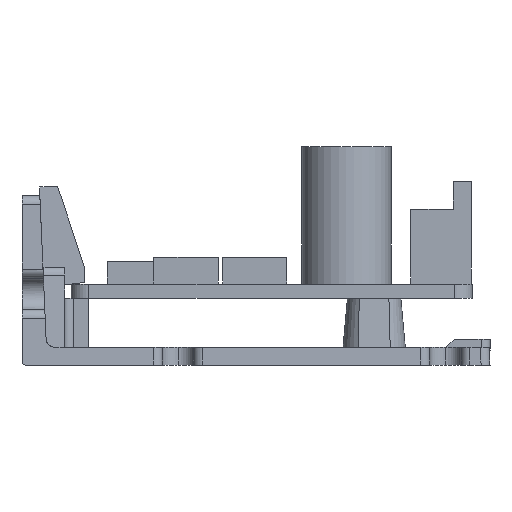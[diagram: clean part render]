
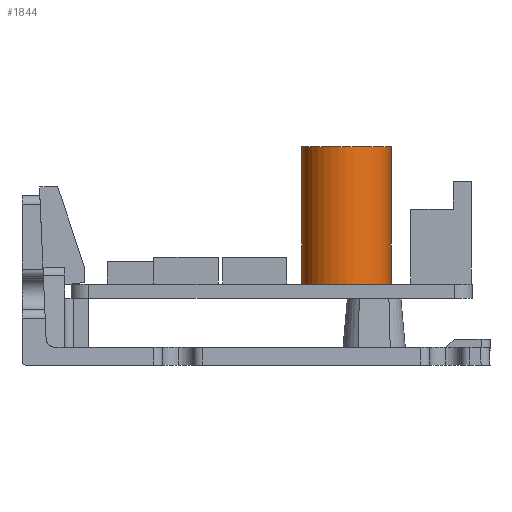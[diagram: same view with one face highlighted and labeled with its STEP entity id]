
A CAD part, left-side view. The second image highlights one B-rep face of the part: STEP entity #1844.
In plain terms, the highlighted cylindrical face has radius 5 mm (diameter 10 mm), a partial arc.
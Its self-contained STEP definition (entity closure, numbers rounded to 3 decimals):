
#249 = FACE_OUTER_BOUND ( 'NONE', #6425, .T. ) ;
#307 = DIRECTION ( 'NONE',  ( -1., 0., 0. ) ) ;
#698 = LINE ( 'NONE', #7408, #4447 ) ;
#715 = ORIENTED_EDGE ( 'NONE', *, *, #2830, .F. ) ;
#998 = CARTESIAN_POINT ( 'NONE',  ( 8.05, 16.1, 22.9 ) ) ;
#1392 = CIRCLE ( 'NONE', #7114, 5. ) ;
#1844 = ADVANCED_FACE ( 'NONE', ( #249 ), #7542, .T. ) ;
#1930 = AXIS2_PLACEMENT_3D ( 'NONE', #998, #2413, #7332 ) ;
#2156 = DIRECTION ( 'NONE',  ( 0., 0., -1. ) ) ;
#2413 = DIRECTION ( 'NONE',  ( 0., 0., -1. ) ) ;
#2830 = EDGE_CURVE ( 'NONE', #5985, #8064, #7373, .T. ) ;
#3822 = CIRCLE ( 'NONE', #5284, 5. ) ;
#3965 = EDGE_CURVE ( 'NONE', #4052, #9067, #698, .T. ) ;
#4052 = VERTEX_POINT ( 'NONE', #8993 ) ;
#4068 = VECTOR ( 'NONE', #2156, 1000. ) ;
#4176 = CARTESIAN_POINT ( 'NONE',  ( 8.05, 16.1, 24.5 ) ) ;
#4447 = VECTOR ( 'NONE', #4597, 1000. ) ;
#4547 = DIRECTION ( 'NONE',  ( 0., 0., 1. ) ) ;
#4597 = DIRECTION ( 'NONE',  ( 0., 0., -1. ) ) ;
#4659 = CARTESIAN_POINT ( 'NONE',  ( 8.05, 11.1, 9.1 ) ) ;
#4889 = DIRECTION ( 'NONE',  ( 1., 0., 0. ) ) ;
#5284 = AXIS2_PLACEMENT_3D ( 'NONE', #8807, #4547, #307 ) ;
#5912 = EDGE_CURVE ( 'NONE', #9067, #8064, #3822, .T. ) ;
#5985 = VERTEX_POINT ( 'NONE', #6703 ) ;
#6425 = EDGE_LOOP ( 'NONE', ( #8547, #8160, #9051, #715 ) ) ;
#6666 = EDGE_CURVE ( 'NONE', #4052, #5985, #1392, .T. ) ;
#6703 = CARTESIAN_POINT ( 'NONE',  ( 8.05, 11.1, 24.5 ) ) ;
#7112 = CARTESIAN_POINT ( 'NONE',  ( 8.05, 11.1, 22.9 ) ) ;
#7114 = AXIS2_PLACEMENT_3D ( 'NONE', #4176, #9129, #4889 ) ;
#7332 = DIRECTION ( 'NONE',  ( 0., -1., 0. ) ) ;
#7373 = LINE ( 'NONE', #7112, #4068 ) ;
#7408 = CARTESIAN_POINT ( 'NONE',  ( 8.05, 21.1, 22.9 ) ) ;
#7542 = CYLINDRICAL_SURFACE ( 'NONE', #1930, 5. ) ;
#8064 = VERTEX_POINT ( 'NONE', #4659 ) ;
#8160 = ORIENTED_EDGE ( 'NONE', *, *, #3965, .T. ) ;
#8547 = ORIENTED_EDGE ( 'NONE', *, *, #6666, .F. ) ;
#8699 = CARTESIAN_POINT ( 'NONE',  ( 8.05, 21.1, 9.1 ) ) ;
#8807 = CARTESIAN_POINT ( 'NONE',  ( 8.05, 16.1, 9.1 ) ) ;
#8993 = CARTESIAN_POINT ( 'NONE',  ( 8.05, 21.1, 24.5 ) ) ;
#9051 = ORIENTED_EDGE ( 'NONE', *, *, #5912, .T. ) ;
#9067 = VERTEX_POINT ( 'NONE', #8699 ) ;
#9129 = DIRECTION ( 'NONE',  ( 0., 0., 1. ) ) ;
